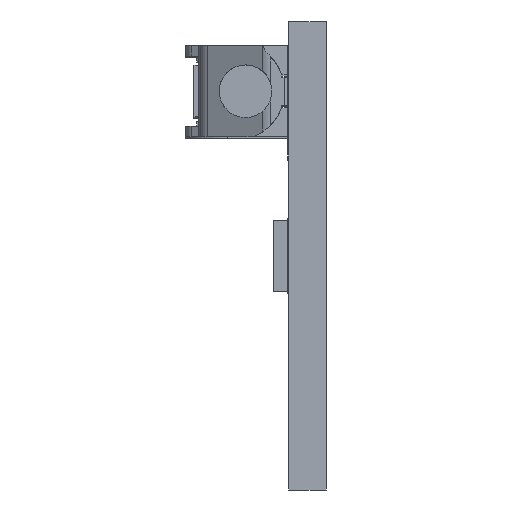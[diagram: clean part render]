
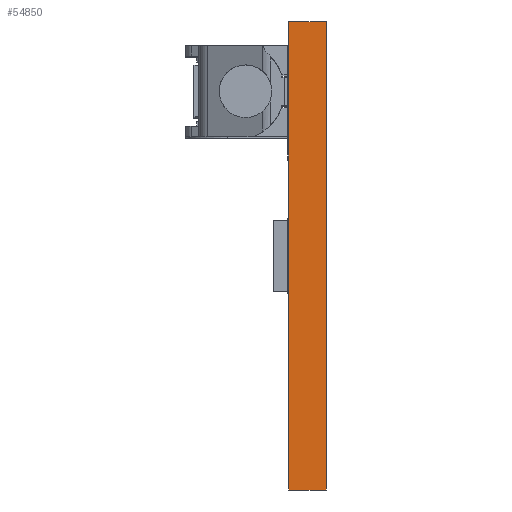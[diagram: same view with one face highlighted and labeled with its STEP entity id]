
A CAD part, left-side view. The second image highlights one B-rep face of the part: STEP entity #54850.
In plain terms, the highlighted planar face has unit normal (-1, 0, 0).
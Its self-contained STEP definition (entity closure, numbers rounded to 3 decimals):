
#792 = CARTESIAN_POINT ( 'NONE',  ( 0., 0., -20. ) ) ;
#5666 = VECTOR ( 'NONE', #46439, 1000. ) ;
#6288 = CARTESIAN_POINT ( 'NONE',  ( 0., 0., 0. ) ) ;
#8424 = CARTESIAN_POINT ( 'NONE',  ( 0., -1.6, 0. ) ) ;
#12306 = LINE ( 'NONE', #6288, #49629 ) ;
#13410 = ORIENTED_EDGE ( 'NONE', *, *, #19542, .F. ) ;
#17800 = CARTESIAN_POINT ( 'NONE',  ( 0., 0., 0. ) ) ;
#18520 = CARTESIAN_POINT ( 'NONE',  ( 0., -1.6, 0. ) ) ;
#19542 = EDGE_CURVE ( 'NONE', #48118, #49620, #77906, .T. ) ;
#21044 = CARTESIAN_POINT ( 'NONE',  ( 0., -1.6, -20. ) ) ;
#22512 = DIRECTION ( 'NONE',  ( 1., 0., 0. ) ) ;
#24418 = CARTESIAN_POINT ( 'NONE',  ( 0., -1.6, 0. ) ) ;
#26097 = ORIENTED_EDGE ( 'NONE', *, *, #40153, .T. ) ;
#29096 = LINE ( 'NONE', #21044, #64162 ) ;
#32085 = CARTESIAN_POINT ( 'NONE',  ( 0., -1.6, -20. ) ) ;
#40153 = EDGE_CURVE ( 'NONE', #48118, #78088, #62727, .T. ) ;
#40895 = DIRECTION ( 'NONE',  ( 0., 0., -1. ) ) ;
#46439 = DIRECTION ( 'NONE',  ( 0., 0., -1. ) ) ;
#48118 = VERTEX_POINT ( 'NONE', #24418 ) ;
#48802 = FACE_OUTER_BOUND ( 'NONE', #65631, .T. ) ;
#49620 = VERTEX_POINT ( 'NONE', #32085 ) ;
#49629 = VECTOR ( 'NONE', #40895, 1000. ) ;
#51570 = ORIENTED_EDGE ( 'NONE', *, *, #54684, .F. ) ;
#54684 = EDGE_CURVE ( 'NONE', #49620, #67388, #29096, .T. ) ;
#54850 = ADVANCED_FACE ( 'NONE', ( #48802 ), #64483, .F. ) ;
#56049 = DIRECTION ( 'NONE',  ( 0., 1., 0. ) ) ;
#60302 = ORIENTED_EDGE ( 'NONE', *, *, #65793, .T. ) ;
#62727 = LINE ( 'NONE', #84409, #76905 ) ;
#64162 = VECTOR ( 'NONE', #70022, 1000. ) ;
#64483 = PLANE ( 'NONE',  #89253 ) ;
#65631 = EDGE_LOOP ( 'NONE', ( #60302, #51570, #13410, #26097 ) ) ;
#65793 = EDGE_CURVE ( 'NONE', #78088, #67388, #12306, .T. ) ;
#67388 = VERTEX_POINT ( 'NONE', #792 ) ;
#70022 = DIRECTION ( 'NONE',  ( 0., 1., 0. ) ) ;
#71529 = DIRECTION ( 'NONE',  ( 0., 0., -1. ) ) ;
#76905 = VECTOR ( 'NONE', #56049, 1000. ) ;
#77906 = LINE ( 'NONE', #18520, #5666 ) ;
#78088 = VERTEX_POINT ( 'NONE', #17800 ) ;
#84409 = CARTESIAN_POINT ( 'NONE',  ( 0., -1.6, 0. ) ) ;
#89253 = AXIS2_PLACEMENT_3D ( 'NONE', #8424, #22512, #71529 ) ;
